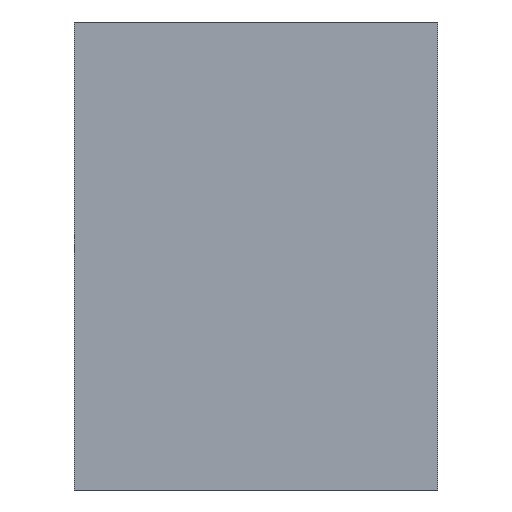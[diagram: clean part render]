
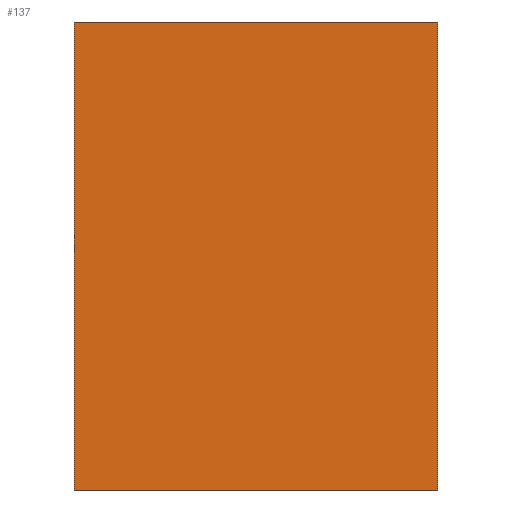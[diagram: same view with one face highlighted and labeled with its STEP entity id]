
A CAD part, front view. The second image highlights one B-rep face of the part: STEP entity #137.
In plain terms, the highlighted planar face has unit normal (0, -1, 0).
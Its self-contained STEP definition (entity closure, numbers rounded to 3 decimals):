
#21 = EDGE_CURVE('',#22,#24,#26,.T.);
#22 = VERTEX_POINT('',#23);
#23 = CARTESIAN_POINT('',(-32.5,-14.25,-41.9));
#24 = VERTEX_POINT('',#25);
#25 = CARTESIAN_POINT('',(-32.5,-14.25,41.9));
#26 = SURFACE_CURVE('',#27,(#31,#43),.PCURVE_S1.);
#27 = LINE('',#28,#29);
#28 = CARTESIAN_POINT('',(-32.5,-14.25,-41.9));
#29 = VECTOR('',#30,1.);
#30 = DIRECTION('',(0.,0.,1.));
#31 = PCURVE('',#32,#37);
#32 = PLANE('',#33);
#33 = AXIS2_PLACEMENT_3D('',#34,#35,#36);
#34 = CARTESIAN_POINT('',(-32.5,-14.25,-41.9));
#35 = DIRECTION('',(1.,0.,0.));
#36 = DIRECTION('',(0.,0.,1.));
#37 = DEFINITIONAL_REPRESENTATION('',(#38),#42);
#38 = LINE('',#39,#40);
#39 = CARTESIAN_POINT('',(0.,0.));
#40 = VECTOR('',#41,1.);
#41 = DIRECTION('',(1.,0.));
#42 = ( GEOMETRIC_REPRESENTATION_CONTEXT(2) 
PARAMETRIC_REPRESENTATION_CONTEXT() REPRESENTATION_CONTEXT('2D SPACE',''
  ) );
#43 = PCURVE('',#44,#49);
#44 = PLANE('',#45);
#45 = AXIS2_PLACEMENT_3D('',#46,#47,#48);
#46 = CARTESIAN_POINT('',(-32.5,-14.25,-41.9));
#47 = DIRECTION('',(0.,1.,0.));
#48 = DIRECTION('',(0.,0.,1.));
#49 = DEFINITIONAL_REPRESENTATION('',(#50),#54);
#50 = LINE('',#51,#52);
#51 = CARTESIAN_POINT('',(0.,0.));
#52 = VECTOR('',#53,1.);
#53 = DIRECTION('',(1.,0.));
#54 = ( GEOMETRIC_REPRESENTATION_CONTEXT(2) 
PARAMETRIC_REPRESENTATION_CONTEXT() REPRESENTATION_CONTEXT('2D SPACE',''
  ) );
#72 = PLANE('',#73);
#73 = AXIS2_PLACEMENT_3D('',#74,#75,#76);
#74 = CARTESIAN_POINT('',(-32.5,-14.25,-41.9));
#75 = DIRECTION('',(0.,0.,1.));
#76 = DIRECTION('',(1.,0.,0.));
#126 = PLANE('',#127);
#127 = AXIS2_PLACEMENT_3D('',#128,#129,#130);
#128 = CARTESIAN_POINT('',(-32.5,-14.25,41.9));
#129 = DIRECTION('',(0.,0.,1.));
#130 = DIRECTION('',(1.,0.,0.));
#137 = ADVANCED_FACE('',(#138),#44,.F.);
#138 = FACE_BOUND('',#139,.F.);
#139 = EDGE_LOOP('',(#140,#163,#164,#187));
#140 = ORIENTED_EDGE('',*,*,#141,.F.);
#141 = EDGE_CURVE('',#22,#142,#144,.T.);
#142 = VERTEX_POINT('',#143);
#143 = CARTESIAN_POINT('',(32.5,-14.25,-41.9));
#144 = SURFACE_CURVE('',#145,(#149,#156),.PCURVE_S1.);
#145 = LINE('',#146,#147);
#146 = CARTESIAN_POINT('',(-32.5,-14.25,-41.9));
#147 = VECTOR('',#148,1.);
#148 = DIRECTION('',(1.,0.,0.));
#149 = PCURVE('',#44,#150);
#150 = DEFINITIONAL_REPRESENTATION('',(#151),#155);
#151 = LINE('',#152,#153);
#152 = CARTESIAN_POINT('',(0.,0.));
#153 = VECTOR('',#154,1.);
#154 = DIRECTION('',(0.,1.));
#155 = ( GEOMETRIC_REPRESENTATION_CONTEXT(2) 
PARAMETRIC_REPRESENTATION_CONTEXT() REPRESENTATION_CONTEXT('2D SPACE',''
  ) );
#156 = PCURVE('',#72,#157);
#157 = DEFINITIONAL_REPRESENTATION('',(#158),#162);
#158 = LINE('',#159,#160);
#159 = CARTESIAN_POINT('',(0.,0.));
#160 = VECTOR('',#161,1.);
#161 = DIRECTION('',(1.,0.));
#162 = ( GEOMETRIC_REPRESENTATION_CONTEXT(2) 
PARAMETRIC_REPRESENTATION_CONTEXT() REPRESENTATION_CONTEXT('2D SPACE',''
  ) );
#163 = ORIENTED_EDGE('',*,*,#21,.T.);
#164 = ORIENTED_EDGE('',*,*,#165,.T.);
#165 = EDGE_CURVE('',#24,#166,#168,.T.);
#166 = VERTEX_POINT('',#167);
#167 = CARTESIAN_POINT('',(32.5,-14.25,41.9));
#168 = SURFACE_CURVE('',#169,(#173,#180),.PCURVE_S1.);
#169 = LINE('',#170,#171);
#170 = CARTESIAN_POINT('',(-32.5,-14.25,41.9));
#171 = VECTOR('',#172,1.);
#172 = DIRECTION('',(1.,0.,0.));
#173 = PCURVE('',#44,#174);
#174 = DEFINITIONAL_REPRESENTATION('',(#175),#179);
#175 = LINE('',#176,#177);
#176 = CARTESIAN_POINT('',(83.8,0.));
#177 = VECTOR('',#178,1.);
#178 = DIRECTION('',(0.,1.));
#179 = ( GEOMETRIC_REPRESENTATION_CONTEXT(2) 
PARAMETRIC_REPRESENTATION_CONTEXT() REPRESENTATION_CONTEXT('2D SPACE',''
  ) );
#180 = PCURVE('',#126,#181);
#181 = DEFINITIONAL_REPRESENTATION('',(#182),#186);
#182 = LINE('',#183,#184);
#183 = CARTESIAN_POINT('',(0.,0.));
#184 = VECTOR('',#185,1.);
#185 = DIRECTION('',(1.,0.));
#186 = ( GEOMETRIC_REPRESENTATION_CONTEXT(2) 
PARAMETRIC_REPRESENTATION_CONTEXT() REPRESENTATION_CONTEXT('2D SPACE',''
  ) );
#187 = ORIENTED_EDGE('',*,*,#188,.F.);
#188 = EDGE_CURVE('',#142,#166,#189,.T.);
#189 = SURFACE_CURVE('',#190,(#194,#201),.PCURVE_S1.);
#190 = LINE('',#191,#192);
#191 = CARTESIAN_POINT('',(32.5,-14.25,-41.9));
#192 = VECTOR('',#193,1.);
#193 = DIRECTION('',(0.,0.,1.));
#194 = PCURVE('',#44,#195);
#195 = DEFINITIONAL_REPRESENTATION('',(#196),#200);
#196 = LINE('',#197,#198);
#197 = CARTESIAN_POINT('',(0.,65.));
#198 = VECTOR('',#199,1.);
#199 = DIRECTION('',(1.,0.));
#200 = ( GEOMETRIC_REPRESENTATION_CONTEXT(2) 
PARAMETRIC_REPRESENTATION_CONTEXT() REPRESENTATION_CONTEXT('2D SPACE',''
  ) );
#201 = PCURVE('',#202,#207);
#202 = PLANE('',#203);
#203 = AXIS2_PLACEMENT_3D('',#204,#205,#206);
#204 = CARTESIAN_POINT('',(32.5,-14.25,-41.9));
#205 = DIRECTION('',(1.,0.,0.));
#206 = DIRECTION('',(0.,0.,1.));
#207 = DEFINITIONAL_REPRESENTATION('',(#208),#212);
#208 = LINE('',#209,#210);
#209 = CARTESIAN_POINT('',(0.,0.));
#210 = VECTOR('',#211,1.);
#211 = DIRECTION('',(1.,0.));
#212 = ( GEOMETRIC_REPRESENTATION_CONTEXT(2) 
PARAMETRIC_REPRESENTATION_CONTEXT() REPRESENTATION_CONTEXT('2D SPACE',''
  ) );
